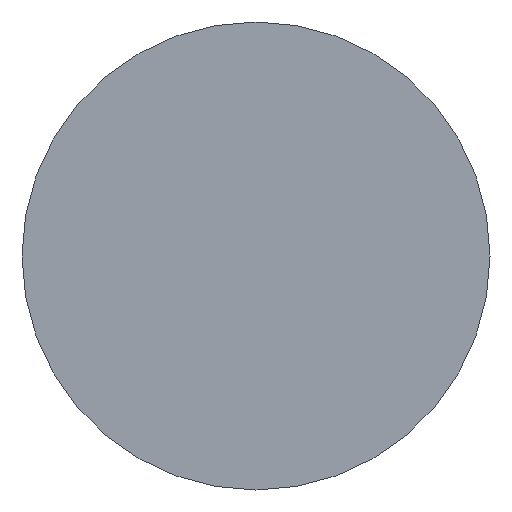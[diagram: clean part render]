
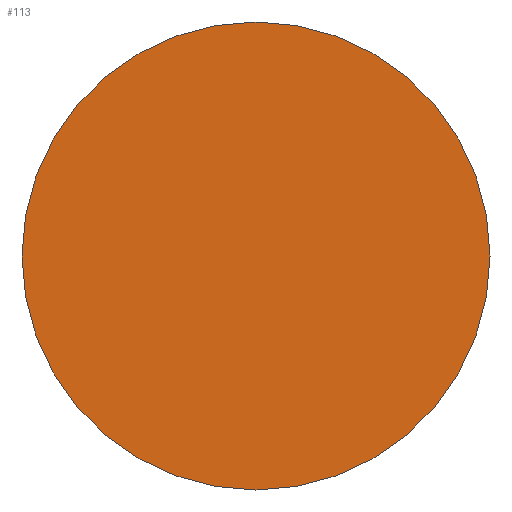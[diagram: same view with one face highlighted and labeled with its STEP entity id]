
A CAD part, left-side view. The second image highlights one B-rep face of the part: STEP entity #113.
In plain terms, the highlighted planar face has unit normal (-1, 0, 0).
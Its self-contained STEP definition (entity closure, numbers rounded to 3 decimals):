
#22 = VERTEX_POINT('',#23);
#23 = CARTESIAN_POINT('',(4.5,-10.,0.));
#32 = CYLINDRICAL_SURFACE('',#33,10.);
#33 = AXIS2_PLACEMENT_3D('',#34,#35,#36);
#34 = CARTESIAN_POINT('',(4.5,0.,0.));
#35 = DIRECTION('',(-1.,0.,-0.));
#36 = DIRECTION('',(-0.,-1.,-0.));
#83 = EDGE_CURVE('',#22,#22,#84,.T.);
#84 = SURFACE_CURVE('',#85,(#90,#97),.PCURVE_S1.);
#85 = CIRCLE('',#86,10.);
#86 = AXIS2_PLACEMENT_3D('',#87,#88,#89);
#87 = CARTESIAN_POINT('',(4.5,0.,0.));
#88 = DIRECTION('',(-1.,0.,0.));
#89 = DIRECTION('',(-0.,-1.,-0.));
#90 = PCURVE('',#32,#91);
#91 = DEFINITIONAL_REPRESENTATION('',(#92),#96);
#92 = LINE('',#93,#94);
#93 = CARTESIAN_POINT('',(0.,0.));
#94 = VECTOR('',#95,1.);
#95 = DIRECTION('',(1.,0.));
#96 = ( GEOMETRIC_REPRESENTATION_CONTEXT(2) 
PARAMETRIC_REPRESENTATION_CONTEXT() REPRESENTATION_CONTEXT('2D SPACE',''
  ) );
#97 = PCURVE('',#98,#103);
#98 = PLANE('',#99);
#99 = AXIS2_PLACEMENT_3D('',#100,#101,#102);
#100 = CARTESIAN_POINT('',(4.5,0.,0.));
#101 = DIRECTION('',(1.,-0.,-0.));
#102 = DIRECTION('',(0.,0.,-1.));
#103 = DEFINITIONAL_REPRESENTATION('',(#104),#112);
#104 = ( BOUNDED_CURVE() B_SPLINE_CURVE(2,(#105,#106,#107,#108,#109,#110
,#111),.UNSPECIFIED.,.T.,.F.) B_SPLINE_CURVE_WITH_KNOTS((1,2,2,2,2,1),(
    -2.094,0.,2.094,4.189,6.283,
8.378),.UNSPECIFIED.) CURVE() GEOMETRIC_REPRESENTATION_ITEM() 
RATIONAL_B_SPLINE_CURVE((1.,0.5,1.,0.5,1.,0.5,1.)) REPRESENTATION_ITEM(
  '') );
#105 = CARTESIAN_POINT('',(0.,-10.));
#106 = CARTESIAN_POINT('',(-17.321,-10.));
#107 = CARTESIAN_POINT('',(-8.66,5.));
#108 = CARTESIAN_POINT('',(0.,20.));
#109 = CARTESIAN_POINT('',(8.66,5.));
#110 = CARTESIAN_POINT('',(17.321,-10.));
#111 = CARTESIAN_POINT('',(0.,-10.));
#112 = ( GEOMETRIC_REPRESENTATION_CONTEXT(2) 
PARAMETRIC_REPRESENTATION_CONTEXT() REPRESENTATION_CONTEXT('2D SPACE',''
  ) );
#113 = ADVANCED_FACE('',(#114),#98,.F.);
#114 = FACE_BOUND('',#115,.T.);
#115 = EDGE_LOOP('',(#116));
#116 = ORIENTED_EDGE('',*,*,#83,.T.);
